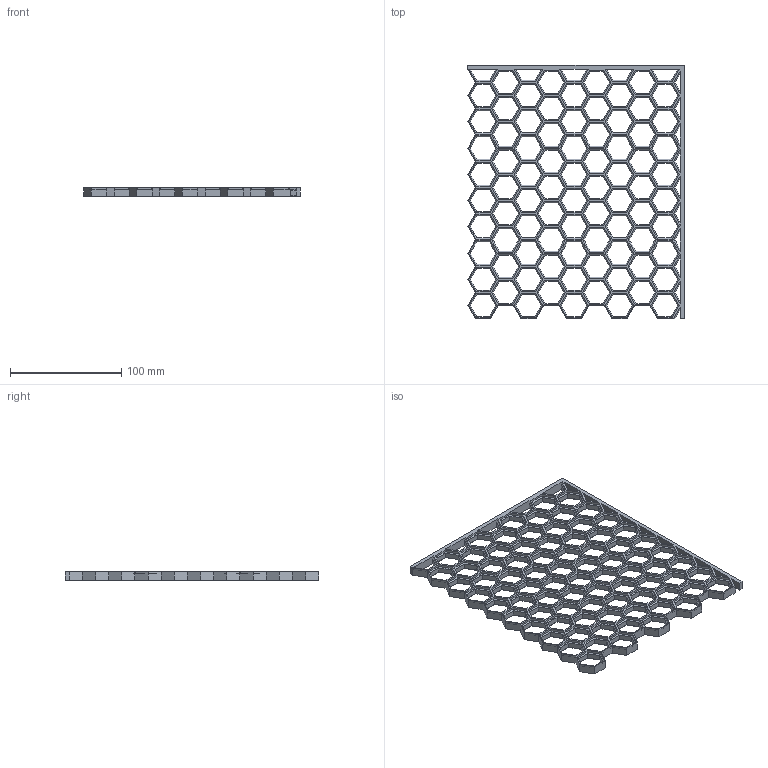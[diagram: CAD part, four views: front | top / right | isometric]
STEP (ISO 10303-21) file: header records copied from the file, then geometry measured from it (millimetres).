
FILE_DESCRIPTION(/* description */ (''),/* implementation_level */ '2;1');
FILE_NAME(/* name */ 'downright.untenrechts.step',/* time_stamp */ '2023-07-05T03:50:58+02:00',/* author */ (''),/* organization */ (''),/* preprocessor_version */ 'ST-DEVELOPER v19.2',/* originating_system */ 'Autodesk Translation Framework v12.6.0.85',/* authorisation */ '');
FILE_SCHEMA (('AUTOMOTIVE_DESIGN { 1 0 10303 214 3 1 1 }'));
Length unit declared in the file: millimetre
Products named in the file (1): wall-honeycomb sortierseytem
Bounding box: 194.36 x 227.8 x 8 mm (x, y, z)
Volume: 90075.4 mm3; surface area: 80412.9 mm2
Topology: 1 solids, 1 shells, 2137 faces, 4890 edges, 2755 vertices
Faces by surface type: plane 2137
Entity records: 57264 total; most frequent: CARTESIAN_POINT 9783, ORIENTED_EDGE 9780, DIRECTION 9166, LINE 4890, VECTOR 4890, EDGE_CURVE 4890, VERTEX_POINT 2755, EDGE_LOOP 2327
